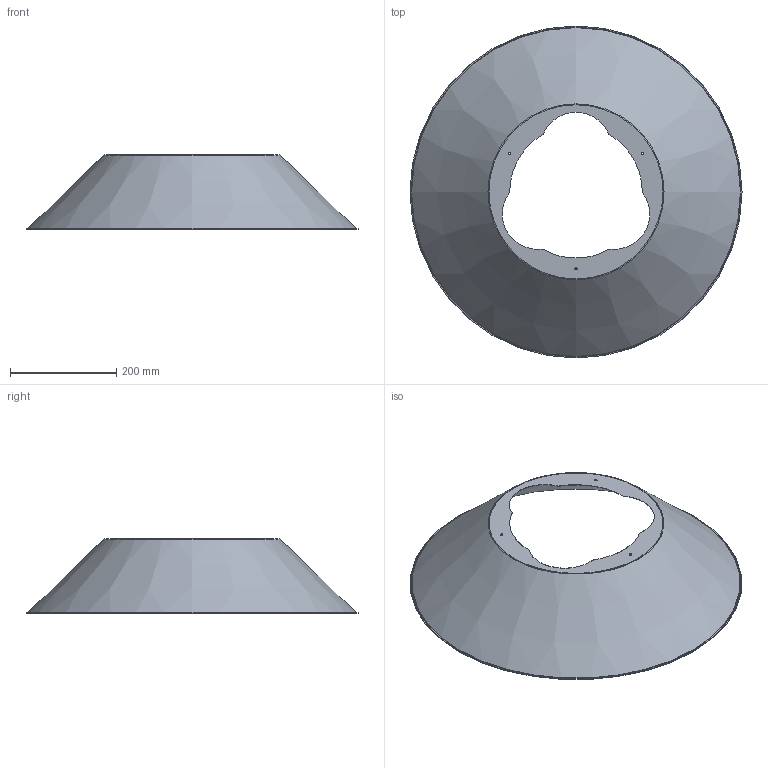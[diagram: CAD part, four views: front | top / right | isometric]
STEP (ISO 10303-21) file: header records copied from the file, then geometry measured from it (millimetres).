
FILE_DESCRIPTION(('STEP AP203'), '1');
FILE_NAME('ﾊ鸙鶴鸙 _ 1323312213', '', ('UNSPECIFIED'), ('UNSPECIFIED'), 'C3D Converter', 'C3D Toolkit', '');
FILE_SCHEMA(('CONFIG_CONTROL_DESIGN'));
Length unit declared in the file: millimetre
Products named in the file (1): 38442947.726112.2026.001
Bounding box: 626 x 626 x 140.5 mm (x, y, z)
Volume: 167891.1 mm3; surface area: 673003.4 mm2
Topology: 1 solids, 1 shells, 20 faces, 44 edges, 28 vertices
Faces by surface type: cylinder 10, plane 4, torus 4, cone 2
Full cylindrical faces by diameter (mm): 4.2 x3, 626 x1
Entity records: 730 total; most frequent: DIRECTION 104, CARTESIAN_POINT 83, ORIENTED_EDGE 68, AXIS2_PLACEMENT_3D 49, EDGE_LOOP 40, EDGE_CURVE 34, VERTEX_POINT 28, CIRCLE 28
